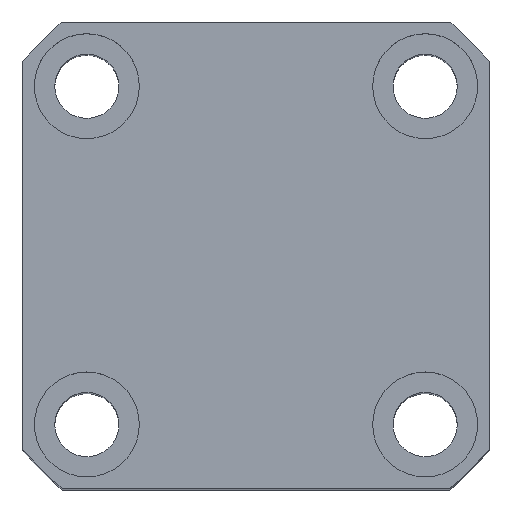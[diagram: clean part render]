
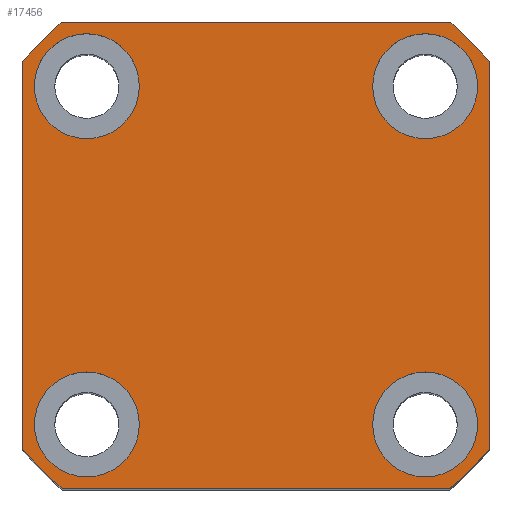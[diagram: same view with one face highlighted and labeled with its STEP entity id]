
A CAD part, top view. The second image highlights one B-rep face of the part: STEP entity #17456.
In plain terms, the highlighted planar face has unit normal (0, 0, 1).
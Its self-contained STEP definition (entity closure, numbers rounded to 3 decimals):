
#182 = AXIS2_PLACEMENT_3D ( 'NONE', #11653, #4717, #3292 ) ;
#412 = DIRECTION ( 'NONE',  ( 0., 0., 1. ) ) ;
#443 = VERTEX_POINT ( 'NONE', #3703 ) ;
#666 = EDGE_CURVE ( 'NONE', #5107, #8544, #10618, .T. ) ;
#723 = AXIS2_PLACEMENT_3D ( 'NONE', #1105, #16496, #15141 ) ;
#759 = DIRECTION ( 'NONE',  ( 0., 0., 1. ) ) ;
#763 = VERTEX_POINT ( 'NONE', #8406 ) ;
#818 = CIRCLE ( 'NONE', #4299, 9. ) ;
#912 = VERTEX_POINT ( 'NONE', #4785 ) ;
#1046 = AXIS2_PLACEMENT_3D ( 'NONE', #14624, #759, #5117 ) ;
#1105 = CARTESIAN_POINT ( 'NONE',  ( -29., 29., 67.5 ) ) ;
#1244 = CARTESIAN_POINT ( 'NONE',  ( 20., -29., 67.5 ) ) ;
#1323 = CARTESIAN_POINT ( 'NONE',  ( -40., 33.226, 67.5 ) ) ;
#1356 = ORIENTED_EDGE ( 'NONE', *, *, #17440, .F. ) ;
#1373 = VERTEX_POINT ( 'NONE', #15994 ) ;
#1377 = ORIENTED_EDGE ( 'NONE', *, *, #666, .T. ) ;
#1632 = DIRECTION ( 'NONE',  ( 0., 0., 1. ) ) ;
#1938 = CARTESIAN_POINT ( 'NONE',  ( 0., 0., 67.5 ) ) ;
#1950 = EDGE_CURVE ( 'NONE', #14032, #12463, #10600, .T. ) ;
#2051 = CARTESIAN_POINT ( 'NONE',  ( -29., 29., 67.5 ) ) ;
#2222 = VERTEX_POINT ( 'NONE', #8262 ) ;
#2487 = EDGE_CURVE ( 'NONE', #1373, #912, #12352, .T. ) ;
#2528 = DIRECTION ( 'NONE',  ( 1., 0., 0. ) ) ;
#2786 = EDGE_CURVE ( 'NONE', #912, #1373, #11904, .T. ) ;
#2844 = CARTESIAN_POINT ( 'NONE',  ( -29., -29., 67.5 ) ) ;
#2848 = ORIENTED_EDGE ( 'NONE', *, *, #17561, .F. ) ;
#2924 = CARTESIAN_POINT ( 'NONE',  ( -33.226, -40., 67.5 ) ) ;
#3077 = DIRECTION ( 'NONE',  ( 1., 0., 0. ) ) ;
#3246 = CIRCLE ( 'NONE', #723, 9. ) ;
#3292 = DIRECTION ( 'NONE',  ( 1., 0., 0. ) ) ;
#3332 = DIRECTION ( 'NONE',  ( 0., 0., 1. ) ) ;
#3333 = ORIENTED_EDGE ( 'NONE', *, *, #7319, .F. ) ;
#3351 = EDGE_LOOP ( 'NONE', ( #6195, #12018 ) ) ;
#3456 = CARTESIAN_POINT ( 'NONE',  ( -29., -29., 67.5 ) ) ;
#3703 = CARTESIAN_POINT ( 'NONE',  ( -33.226, -40., 67.5 ) ) ;
#4140 = VERTEX_POINT ( 'NONE', #12296 ) ;
#4296 = CIRCLE ( 'NONE', #10798, 9. ) ;
#4299 = AXIS2_PLACEMENT_3D ( 'NONE', #2844, #9945, #7142 ) ;
#4352 = ORIENTED_EDGE ( 'NONE', *, *, #16923, .T. ) ;
#4364 = EDGE_CURVE ( 'NONE', #7495, #5107, #5354, .T. ) ;
#4401 = AXIS2_PLACEMENT_3D ( 'NONE', #2051, #11805, #2528 ) ;
#4425 = ORIENTED_EDGE ( 'NONE', *, *, #7523, .F. ) ;
#4427 = AXIS2_PLACEMENT_3D ( 'NONE', #1938, #3332, #13100 ) ;
#4572 = FACE_BOUND ( 'NONE', #8168, .T. ) ;
#4717 = DIRECTION ( 'NONE',  ( 0., 0., 1. ) ) ;
#4785 = CARTESIAN_POINT ( 'NONE',  ( 20., 29., 67.5 ) ) ;
#4824 = EDGE_LOOP ( 'NONE', ( #2848, #9485 ) ) ;
#5013 = FACE_OUTER_BOUND ( 'NONE', #15298, .T. ) ;
#5107 = VERTEX_POINT ( 'NONE', #18083 ) ;
#5117 = DIRECTION ( 'NONE',  ( 1., 0., 0. ) ) ;
#5130 = DIRECTION ( 'NONE',  ( 1., 0., 0. ) ) ;
#5354 = CIRCLE ( 'NONE', #10291, 52. ) ;
#5615 = VECTOR ( 'NONE', #6507, 1000. ) ;
#5797 = VERTEX_POINT ( 'NONE', #14927 ) ;
#5804 = DIRECTION ( 'NONE',  ( 1., 0., 0. ) ) ;
#5890 = EDGE_CURVE ( 'NONE', #11174, #5797, #7768, .T. ) ;
#5999 = DIRECTION ( 'NONE',  ( 1., 0., 0. ) ) ;
#6117 = DIRECTION ( 'NONE',  ( 0., 0., 1. ) ) ;
#6195 = ORIENTED_EDGE ( 'NONE', *, *, #2487, .F. ) ;
#6327 = LINE ( 'NONE', #2924, #16582 ) ;
#6438 = AXIS2_PLACEMENT_3D ( 'NONE', #11439, #1632, #3077 ) ;
#6507 = DIRECTION ( 'NONE',  ( 0., -1., 0. ) ) ;
#6564 = CARTESIAN_POINT ( 'NONE',  ( 40., 33.226, 67.5 ) ) ;
#6627 = CARTESIAN_POINT ( 'NONE',  ( -40., 33.226, 67.5 ) ) ;
#6643 = CARTESIAN_POINT ( 'NONE',  ( 40., 33.226, 67.5 ) ) ;
#6749 = AXIS2_PLACEMENT_3D ( 'NONE', #16356, #17573, #10783 ) ;
#6936 = VECTOR ( 'NONE', #16326, 1000. ) ;
#7142 = DIRECTION ( 'NONE',  ( 1., 0., 0. ) ) ;
#7319 = EDGE_CURVE ( 'NONE', #17781, #10337, #3246, .T. ) ;
#7347 = DIRECTION ( 'NONE',  ( 0., 0., 1. ) ) ;
#7495 = VERTEX_POINT ( 'NONE', #15876 ) ;
#7523 = EDGE_CURVE ( 'NONE', #10337, #17781, #17655, .T. ) ;
#7573 = PLANE ( 'NONE',  #4427 ) ;
#7705 = AXIS2_PLACEMENT_3D ( 'NONE', #11632, #412, #17249 ) ;
#7768 = LINE ( 'NONE', #17802, #8645 ) ;
#8112 = CARTESIAN_POINT ( 'NONE',  ( -20., 29., 67.5 ) ) ;
#8138 = CARTESIAN_POINT ( 'NONE',  ( -38., 29., 67.5 ) ) ;
#8156 = DIRECTION ( 'NONE',  ( 0., 0., 1. ) ) ;
#8168 = EDGE_LOOP ( 'NONE', ( #3333, #4425 ) ) ;
#8262 = CARTESIAN_POINT ( 'NONE',  ( -38., -29., 67.5 ) ) ;
#8406 = CARTESIAN_POINT ( 'NONE',  ( -20., -29., 67.5 ) ) ;
#8544 = VERTEX_POINT ( 'NONE', #6643 ) ;
#8645 = VECTOR ( 'NONE', #10828, 1000. ) ;
#8974 = EDGE_CURVE ( 'NONE', #2222, #763, #818, .T. ) ;
#9485 = ORIENTED_EDGE ( 'NONE', *, *, #8974, .F. ) ;
#9921 = AXIS2_PLACEMENT_3D ( 'NONE', #11585, #6117, #17269 ) ;
#9931 = ORIENTED_EDGE ( 'NONE', *, *, #5890, .T. ) ;
#9945 = DIRECTION ( 'NONE',  ( 0., 0., 1. ) ) ;
#10111 = EDGE_LOOP ( 'NONE', ( #1356, #14847 ) ) ;
#10291 = AXIS2_PLACEMENT_3D ( 'NONE', #17152, #7347, #5999 ) ;
#10337 = VERTEX_POINT ( 'NONE', #8138 ) ;
#10600 = LINE ( 'NONE', #6627, #5615 ) ;
#10618 = LINE ( 'NONE', #6564, #6936 ) ;
#10776 = EDGE_CURVE ( 'NONE', #10957, #4140, #4296, .T. ) ;
#10783 = DIRECTION ( 'NONE',  ( 1., 0., 0. ) ) ;
#10798 = AXIS2_PLACEMENT_3D ( 'NONE', #16505, #8156, #13503 ) ;
#10828 = DIRECTION ( 'NONE',  ( -1., 0., 0. ) ) ;
#10957 = VERTEX_POINT ( 'NONE', #1244 ) ;
#11174 = VERTEX_POINT ( 'NONE', #17628 ) ;
#11439 = CARTESIAN_POINT ( 'NONE',  ( 29., 29., 67.5 ) ) ;
#11585 = CARTESIAN_POINT ( 'NONE',  ( 0., 0., 67.5 ) ) ;
#11632 = CARTESIAN_POINT ( 'NONE',  ( 29., -29., 67.5 ) ) ;
#11653 = CARTESIAN_POINT ( 'NONE',  ( 0., 0., 67.5 ) ) ;
#11805 = DIRECTION ( 'NONE',  ( 0., 0., 1. ) ) ;
#11817 = DIRECTION ( 'NONE',  ( 0., 0., 1. ) ) ;
#11834 = CARTESIAN_POINT ( 'NONE',  ( -40., -33.226, 67.5 ) ) ;
#11904 = CIRCLE ( 'NONE', #1046, 9. ) ;
#12017 = ORIENTED_EDGE ( 'NONE', *, *, #14761, .T. ) ;
#12018 = ORIENTED_EDGE ( 'NONE', *, *, #2786, .F. ) ;
#12253 = ORIENTED_EDGE ( 'NONE', *, *, #4364, .T. ) ;
#12296 = CARTESIAN_POINT ( 'NONE',  ( 38., -29., 67.5 ) ) ;
#12352 = CIRCLE ( 'NONE', #6438, 9. ) ;
#12463 = VERTEX_POINT ( 'NONE', #11834 ) ;
#12833 = AXIS2_PLACEMENT_3D ( 'NONE', #3456, #11817, #5130 ) ;
#13100 = DIRECTION ( 'NONE',  ( 1., 0., 0. ) ) ;
#13176 = ORIENTED_EDGE ( 'NONE', *, *, #14737, .T. ) ;
#13503 = DIRECTION ( 'NONE',  ( 1., 0., 0. ) ) ;
#13585 = ORIENTED_EDGE ( 'NONE', *, *, #17237, .T. ) ;
#14032 = VERTEX_POINT ( 'NONE', #1323 ) ;
#14624 = CARTESIAN_POINT ( 'NONE',  ( 29., 29., 67.5 ) ) ;
#14653 = CIRCLE ( 'NONE', #182, 52. ) ;
#14737 = EDGE_CURVE ( 'NONE', #5797, #14032, #16842, .T. ) ;
#14761 = EDGE_CURVE ( 'NONE', #12463, #443, #14653, .T. ) ;
#14825 = FACE_BOUND ( 'NONE', #3351, .T. ) ;
#14847 = ORIENTED_EDGE ( 'NONE', *, *, #10776, .F. ) ;
#14927 = CARTESIAN_POINT ( 'NONE',  ( -33.226, 40., 67.5 ) ) ;
#15041 = FACE_BOUND ( 'NONE', #4824, .T. ) ;
#15141 = DIRECTION ( 'NONE',  ( 1., 0., 0. ) ) ;
#15260 = CIRCLE ( 'NONE', #12833, 9. ) ;
#15298 = EDGE_LOOP ( 'NONE', ( #13176, #17532, #12017, #13585, #12253, #1377, #4352, #9931 ) ) ;
#15700 = CIRCLE ( 'NONE', #7705, 9. ) ;
#15876 = CARTESIAN_POINT ( 'NONE',  ( 33.226, -40., 67.5 ) ) ;
#15994 = CARTESIAN_POINT ( 'NONE',  ( 38., 29., 67.5 ) ) ;
#16326 = DIRECTION ( 'NONE',  ( 0., 1., 0. ) ) ;
#16356 = CARTESIAN_POINT ( 'NONE',  ( 0., 0., 67.5 ) ) ;
#16496 = DIRECTION ( 'NONE',  ( 0., 0., 1. ) ) ;
#16505 = CARTESIAN_POINT ( 'NONE',  ( 29., -29., 67.5 ) ) ;
#16582 = VECTOR ( 'NONE', #5804, 1000. ) ;
#16842 = CIRCLE ( 'NONE', #9921, 52. ) ;
#16923 = EDGE_CURVE ( 'NONE', #8544, #11174, #17891, .T. ) ;
#17152 = CARTESIAN_POINT ( 'NONE',  ( 0., 0., 67.5 ) ) ;
#17237 = EDGE_CURVE ( 'NONE', #443, #7495, #6327, .T. ) ;
#17249 = DIRECTION ( 'NONE',  ( 1., 0., 0. ) ) ;
#17269 = DIRECTION ( 'NONE',  ( 1., 0., 0. ) ) ;
#17440 = EDGE_CURVE ( 'NONE', #4140, #10957, #15700, .T. ) ;
#17456 = ADVANCED_FACE ( 'NONE', ( #18090, #15041, #4572, #14825, #5013 ), #7573, .T. ) ;
#17532 = ORIENTED_EDGE ( 'NONE', *, *, #1950, .T. ) ;
#17561 = EDGE_CURVE ( 'NONE', #763, #2222, #15260, .T. ) ;
#17573 = DIRECTION ( 'NONE',  ( 0., 0., 1. ) ) ;
#17628 = CARTESIAN_POINT ( 'NONE',  ( 33.226, 40., 67.5 ) ) ;
#17655 = CIRCLE ( 'NONE', #4401, 9. ) ;
#17781 = VERTEX_POINT ( 'NONE', #8112 ) ;
#17802 = CARTESIAN_POINT ( 'NONE',  ( -33.226, 40., 67.5 ) ) ;
#17891 = CIRCLE ( 'NONE', #6749, 52. ) ;
#18083 = CARTESIAN_POINT ( 'NONE',  ( 40., -33.226, 67.5 ) ) ;
#18090 = FACE_BOUND ( 'NONE', #10111, .T. ) ;
